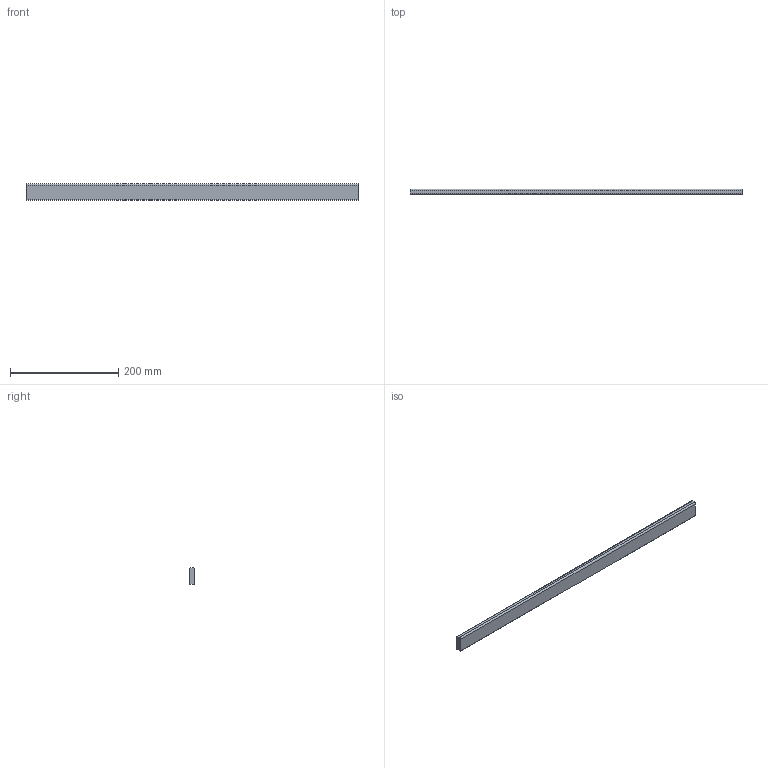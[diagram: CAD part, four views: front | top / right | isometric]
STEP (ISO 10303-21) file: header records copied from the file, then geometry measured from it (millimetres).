
FILE_DESCRIPTION (( 'STEP AP214' ), '1' );
FILE_NAME ('_Querreling_KAB-700_KS-16.step', '2010-08-26T14:59:02', ( 'grass' ), ( '' ), 'SwSTEP 2.0', 'SolidWorks 2009', '' );
FILE_SCHEMA (( 'AUTOMOTIVE_DESIGN' ));
Length unit declared in the file: millimetre
Products named in the file (1): _Querreling_KAB-700_KS-16
Bounding box: 612.5 x 10.5 x 30 mm (x, y, z)
Volume: 190308.6 mm3; surface area: 48130.8 mm2
Topology: 1 solids, 1 shells, 10 faces, 24 edges, 16 vertices
Faces by surface type: plane 6, cylinder 4
Entity records: 330 total; most frequent: DIRECTION 54, CARTESIAN_POINT 51, ORIENTED_EDGE 48, EDGE_CURVE 24, AXIS2_PLACEMENT_3D 19, LINE 16, VECTOR 16, VERTEX_POINT 16
